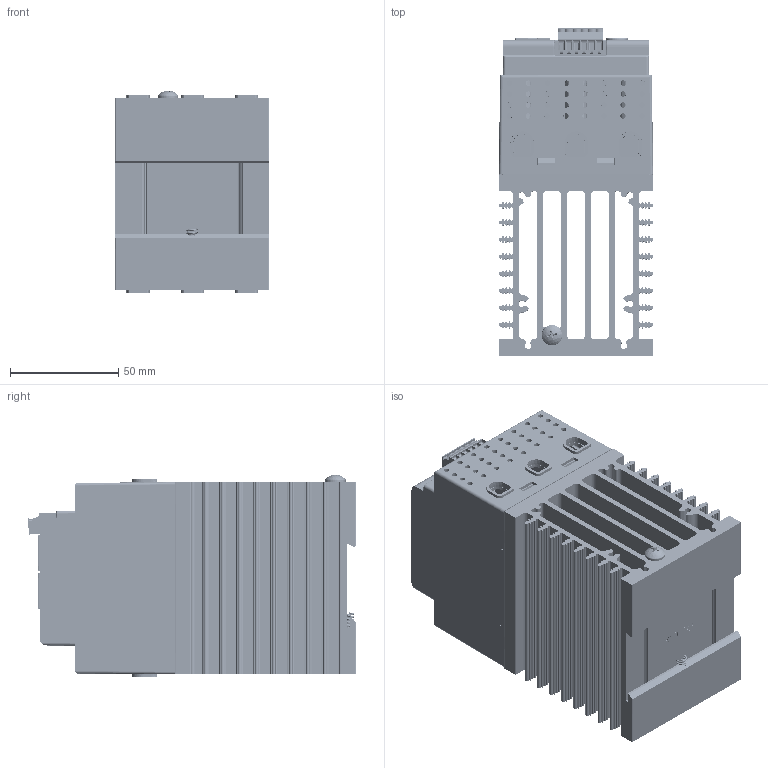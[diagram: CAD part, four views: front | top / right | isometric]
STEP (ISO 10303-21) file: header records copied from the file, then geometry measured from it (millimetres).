
FILE_DESCRIPTION(/* description */ (''),/* implementation_level */ '2;1');
FILE_NAME(/* name */ '3-phase EtherCAT 32A.stp',/* time_stamp */ '2024-11-15T09:52:35-06:00',/* author */ ('ErikG'),/* organization */ (''),/* preprocessor_version */ 'ST-DEVELOPER v20',/* originating_system */ 'Autodesk Inventor 2025',/* authorisation */ '');
FILE_SCHEMA (('AUTOMOTIVE_DESIGN { 1 0 10303 214 3 1 1 }'));
Products named in the file (33): 3001632e; SCA-3TC; P1; usb-c31-s-vt-cs4-bk-pp-t-r-model ADAMTECH; P6; fci 6 pin header OQ06120000J0G; fci 6 pin headerOQ06120000J0G half 1; fci 5 pin header OQ05120000J0G half 2; fci 6 pin connector TS06110B00J0G; fci 5 pin connector TS05110B00J0G LEFT HALF; fci 5 pin connector TS05110B00J0G RIGHT HALF; P2; TC0203620000G; P11; P5; 74990101210 (rev1); base; shielding; SCA-3TC_1; SW3; SW2; SH-7070TA; _SH-7070A_body; _SH-700-Without knob (Minus slot); 3001769C_ecat cutouts; 3001761; 3001759; 3001766; 3001765b; 3001746; spring; 0060783-0610-010.ipt; 0060702-1032-0375
Assembly tree (36 placements, depth 6):
  3001632e
    SCA-3TC
      P1
        usb-c31-s-vt-cs4-bk-pp-t-r-model ADAMTECH
      P6
        fci 6 pin header OQ06120000J0G
          fci 6 pin headerOQ06120000J0G half 1
          fci 5 pin header OQ05120000J0G half 2
          fci 6 pin connector TS06110B00J0G
            fci 5 pin connector TS05110B00J0G LEFT HALF
            fci 5 pin connector TS05110B00J0G RIGHT HALF
      P2
        TC0203620000G
      P11
        74990101210 (rev1)
          base
          shielding
      P5
        74990101210 (rev1)
          base
          shielding
    SCA-3TC_1
      SW3
        SH-7070TA
          _SH-7070A_body
          _SH-700-Without knob (Minus slot)
      SW2
        SH-7070TA
          _SH-7070A_body
          _SH-700-Without knob (Minus slot)
    3001769C_ecat cutouts
    3001761  x3
    3001759
    3001766
    3001765b
    3001746
    spring
    0060783-0610-010.ipt
    0060702-1032-0375
Bounding box: 71.12 x 151.53 x 93.49 mm (x, y, z)
Volume: 301724.9 mm3; surface area: 273610.6 mm2
Topology: 26 solids, 116 shells, 10392 faces, 29140 edges, 19166 vertices
Faces by surface type: plane 7959, cylinder 1801, cone 340, bspline 190, torus 83, sphere 19
Full cylindrical faces by diameter (mm): 0.254 x1, 0.45 x2, 0.55 x2, 0.65 x2, 1 x6, 1.2 x2, 1.75 x2, 2.15 x12, 2.3 x12, 2.642 x6, 2.7 x2, 2.8 x4, 2.95 x6, 3.277 x4, 3.28 x2, 3.3 x2, 3.342 x1, 3.4 x2, 3.42 x2, 3.6 x2, 4 x2, 4.826 x1, 4.917 x1, 6 x1, 6.172 x1, 6.731 x2, 7.976 x1, 9.474 x1
Entity records: 289738 total; most frequent: CARTESIAN_POINT 74298, ORIENTED_EDGE 45762, DIRECTION 42140, EDGE_CURVE 22881, LINE 17722, VECTOR 17722, VERTEX_POINT 15070, AXIS2_PLACEMENT_3D 12209
